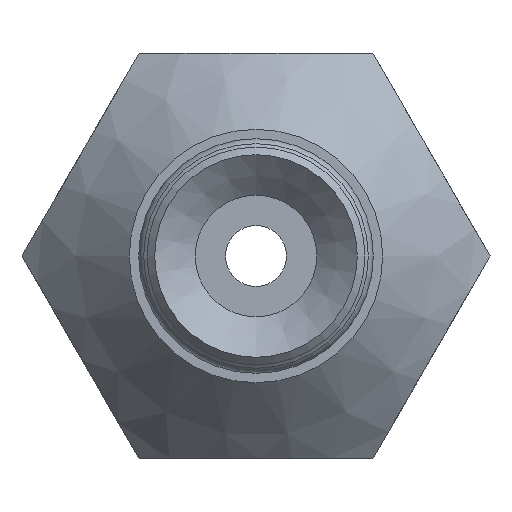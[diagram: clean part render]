
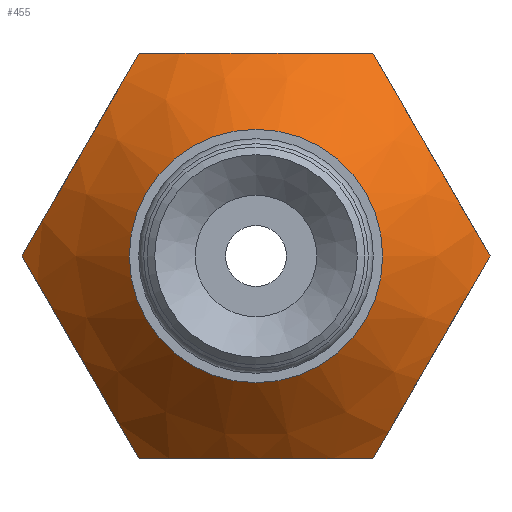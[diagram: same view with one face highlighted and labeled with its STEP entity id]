
A CAD part, front view. The second image highlights one B-rep face of the part: STEP entity #455.
In plain terms, the highlighted conical face has half-angle 45 degrees and reference radius 2.5 mm.
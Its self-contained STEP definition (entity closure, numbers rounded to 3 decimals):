
#455=ADVANCED_FACE('',(#572,#573),#574,.T.);
#572=FACE_BOUND('',#856,.T.);
#573=FACE_OUTER_BOUND('',#857,.T.);
#574=CONICAL_SURFACE('',#858,2.5,0.785);
#856=EDGE_LOOP('',(#1139));
#857=EDGE_LOOP('',(#1140,#1141,#1142,#1143,#1144,#1145));
#858=AXIS2_PLACEMENT_3D('',#1146,#1147,#1148);
#1139=ORIENTED_EDGE('',*,*,#1884,.F.);
#1140=ORIENTED_EDGE('',*,*,#1885,.F.);
#1141=ORIENTED_EDGE('',*,*,#1886,.F.);
#1142=ORIENTED_EDGE('',*,*,#1887,.F.);
#1143=ORIENTED_EDGE('',*,*,#1888,.F.);
#1144=ORIENTED_EDGE('',*,*,#1889,.F.);
#1145=ORIENTED_EDGE('',*,*,#1890,.F.);
#1146=CARTESIAN_POINT('',(0.0,0.,0.0));
#1147=DIRECTION('',(-0.0,1.0,-0.0));
#1148=DIRECTION('',(0.0,0.0,1.0));
#1884=EDGE_CURVE('',#2084,#2084,#2085,.T.);
#1885=EDGE_CURVE('',#2086,#2087,#2088,.T.);
#1886=EDGE_CURVE('',#2089,#2086,#2090,.T.);
#1887=EDGE_CURVE('',#2091,#2089,#2092,.T.);
#1888=EDGE_CURVE('',#2093,#2091,#2094,.T.);
#1889=EDGE_CURVE('',#2095,#2093,#2096,.T.);
#1890=EDGE_CURVE('',#2087,#2095,#2097,.T.);
#2084=VERTEX_POINT('',#2422);
#2085=CIRCLE('',#2423,2.5);
#2086=VERTEX_POINT('',#2424);
#2087=VERTEX_POINT('',#2425);
#2088=B_SPLINE_CURVE_WITH_KNOTS('',2,(#2426,#2427,#2428,#2429,#2430),.UNSPECIFIED.,.F.,.F.,(3,2,3),(0.0,0.5,1.0),.UNSPECIFIED.);
#2089=VERTEX_POINT('',#2431);
#2090=B_SPLINE_CURVE_WITH_KNOTS('',2,(#2432,#2433,#2434,#2435,#2436),.UNSPECIFIED.,.F.,.F.,(3,2,3),(0.0,0.5,1.0),.UNSPECIFIED.);
#2091=VERTEX_POINT('',#2437);
#2092=B_SPLINE_CURVE_WITH_KNOTS('',2,(#2438,#2439,#2440,#2441,#2442),.UNSPECIFIED.,.F.,.F.,(3,2,3),(0.0,0.5,1.0),.UNSPECIFIED.);
#2093=VERTEX_POINT('',#2443);
#2094=B_SPLINE_CURVE_WITH_KNOTS('',2,(#2444,#2445,#2446,#2447,#2448),.UNSPECIFIED.,.F.,.F.,(3,2,3),(0.0,0.5,1.0),.UNSPECIFIED.);
#2095=VERTEX_POINT('',#2449);
#2096=B_SPLINE_CURVE_WITH_KNOTS('',2,(#2450,#2451,#2452,#2453,#2454),.UNSPECIFIED.,.F.,.F.,(3,2,3),(0.0,0.5,1.0),.UNSPECIFIED.);
#2097=B_SPLINE_CURVE_WITH_KNOTS('',2,(#2455,#2456,#2457,#2458,#2459),.UNSPECIFIED.,.F.,.F.,(3,2,3),(0.0,0.5,1.0),.UNSPECIFIED.);
#2422=CARTESIAN_POINT('',(0.0,0.,-2.5));
#2423=AXIS2_PLACEMENT_3D('',#2948,#2949,#2950);
#2424=CARTESIAN_POINT('',(4.619,2.119,0.));
#2425=CARTESIAN_POINT('',(2.309,2.119,-4.0));
#2426=CARTESIAN_POINT('',(4.619,2.119,0.));
#2427=CARTESIAN_POINT('',(4.002,1.502,-1.068));
#2428=CARTESIAN_POINT('',(3.468,1.5,-1.993));
#2429=CARTESIAN_POINT('',(2.93,1.498,-2.924));
#2430=CARTESIAN_POINT('',(2.309,2.119,-4.));
#2431=CARTESIAN_POINT('',(2.309,2.119,4.0));
#2432=CARTESIAN_POINT('',(2.309,2.119,4.0));
#2433=CARTESIAN_POINT('',(2.926,1.502,2.932));
#2434=CARTESIAN_POINT('',(3.46,1.5,2.007));
#2435=CARTESIAN_POINT('',(3.998,1.498,1.076));
#2436=CARTESIAN_POINT('',(4.619,2.119,0.));
#2437=CARTESIAN_POINT('',(-2.309,2.119,4.0));
#2438=CARTESIAN_POINT('',(-2.309,2.119,4.0));
#2439=CARTESIAN_POINT('',(-1.073,1.5,4.0));
#2440=CARTESIAN_POINT('',(-0.001,1.5,4.0));
#2441=CARTESIAN_POINT('',(1.071,1.5,4.0));
#2442=CARTESIAN_POINT('',(2.309,2.119,4.0));
#2443=CARTESIAN_POINT('',(-4.619,2.119,0.));
#2444=CARTESIAN_POINT('',(-4.619,2.119,0.));
#2445=CARTESIAN_POINT('',(-4.002,1.502,1.068));
#2446=CARTESIAN_POINT('',(-3.468,1.5,1.993));
#2447=CARTESIAN_POINT('',(-2.93,1.498,2.924));
#2448=CARTESIAN_POINT('',(-2.309,2.119,4.));
#2449=CARTESIAN_POINT('',(-2.309,2.119,-4.0));
#2450=CARTESIAN_POINT('',(-2.309,2.119,-4.0));
#2451=CARTESIAN_POINT('',(-2.926,1.502,-2.932));
#2452=CARTESIAN_POINT('',(-3.46,1.5,-2.007));
#2453=CARTESIAN_POINT('',(-3.998,1.498,-1.076));
#2454=CARTESIAN_POINT('',(-4.619,2.119,0.));
#2455=CARTESIAN_POINT('',(2.309,2.119,-4.0));
#2456=CARTESIAN_POINT('',(1.073,1.5,-4.0));
#2457=CARTESIAN_POINT('',(0.001,1.5,-4.0));
#2458=CARTESIAN_POINT('',(-1.071,1.5,-4.0));
#2459=CARTESIAN_POINT('',(-2.309,2.119,-4.0));
#2948=CARTESIAN_POINT('',(0.0,0.,0.0));
#2949=DIRECTION('',(0.0,-1.0,0.0));
#2950=DIRECTION('',(0.0,0.0,-1.0));
